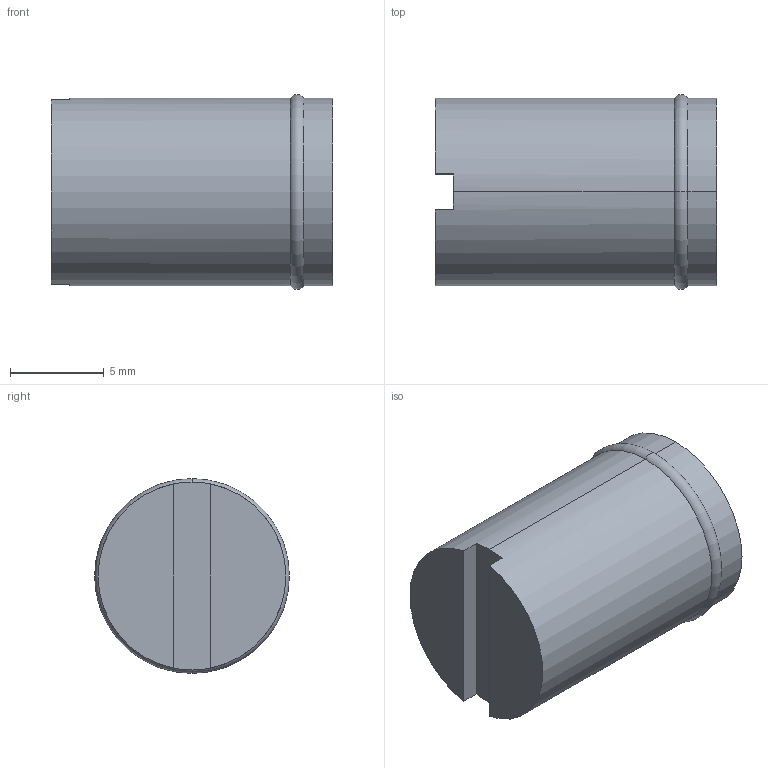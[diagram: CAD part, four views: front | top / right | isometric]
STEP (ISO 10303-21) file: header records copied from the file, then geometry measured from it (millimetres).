
FILE_DESCRIPTION (( 'STEP AP214' ), '1' );
FILE_NAME ('BRWV-10.STEP', '2020-06-23T10:45:42', ( '' ), ( '' ), 'SwSTEP 2.0', 'SolidWorks 2018', '' );
FILE_SCHEMA (( 'AUTOMOTIVE_DESIGN' ));
Length unit declared in the file: millimetre
Products named in the file (1): BRWV-10
Bounding box: 15 x 10.38 x 10.38 mm (x, y, z)
Volume: 1162.5 mm3; surface area: 648.3 mm2
Topology: 1 solids, 1 shells, 12 faces, 26 edges, 16 vertices
Faces by surface type: plane 6, cylinder 4, torus 2
Entity records: 366 total; most frequent: DIRECTION 66, CARTESIAN_POINT 55, ORIENTED_EDGE 52, AXIS2_PLACEMENT_3D 27, EDGE_CURVE 26, VERTEX_POINT 16, CIRCLE 14, LINE 12
